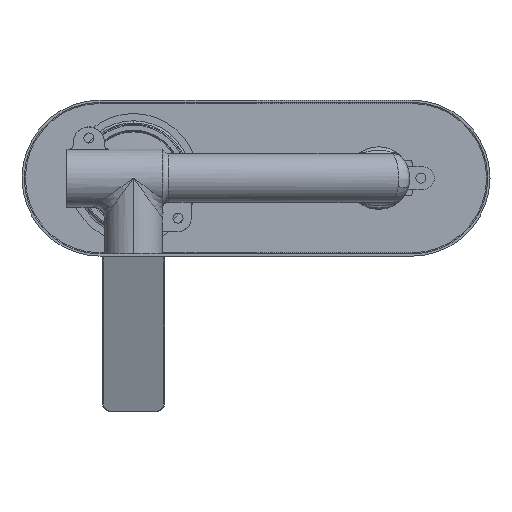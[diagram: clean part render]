
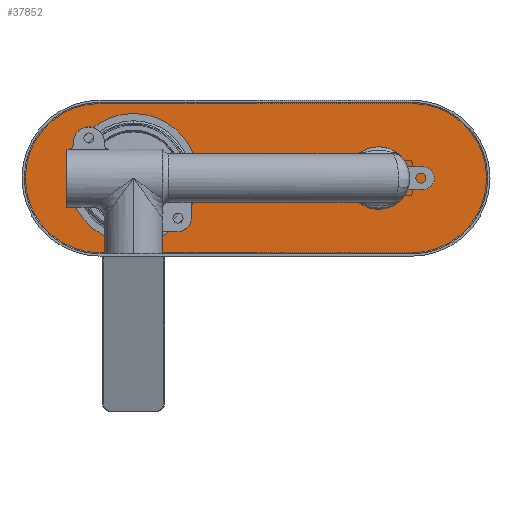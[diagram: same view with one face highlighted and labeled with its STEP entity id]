
A CAD part, left-side view. The second image highlights one B-rep face of the part: STEP entity #37852.
In plain terms, the highlighted planar face has unit normal (-1, 0, 0) as drawn and (0, 0, -1) by its records, which use the part's own axes.
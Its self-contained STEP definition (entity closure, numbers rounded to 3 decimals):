
#37397=DIRECTION('',(-1.,0.,0.));
#37398=VECTOR('',#37397,140.);
#37399=CARTESIAN_POINT('',(70.,-33.5,6.));
#37400=LINE('',#37399,#37398);
#37401=CARTESIAN_POINT('',(70.,0.,6.));
#37402=DIRECTION('',(0.,0.,-1.));
#37403=DIRECTION('',(0.,1.,0.));
#37404=AXIS2_PLACEMENT_3D('',#37401,#37402,#37403);
#37406=DIRECTION('',(1.,0.,0.));
#37407=VECTOR('',#37406,140.);
#37408=CARTESIAN_POINT('',(-70.,33.5,6.));
#37409=LINE('',#37408,#37407);
#37410=CARTESIAN_POINT('',(-70.,0.,6.));
#37411=DIRECTION('',(0.,0.,-1.));
#37412=DIRECTION('',(0.,-1.,0.));
#37413=AXIS2_PLACEMENT_3D('',#37410,#37411,#37412);
#37415=CARTESIAN_POINT('',(-55.,0.,6.));
#37416=DIRECTION('',(0.,0.,1.));
#37417=DIRECTION('',(1.,0.,0.));
#37418=AXIS2_PLACEMENT_3D('',#37415,#37416,#37417);
#37420=CARTESIAN_POINT('',(-55.,0.,6.));
#37421=DIRECTION('',(0.,0.,1.));
#37422=DIRECTION('',(-1.,0.,0.));
#37423=AXIS2_PLACEMENT_3D('',#37420,#37421,#37422);
#37425=CARTESIAN_POINT('',(55.,0.,6.));
#37426=DIRECTION('',(0.,0.,1.));
#37427=DIRECTION('',(1.,0.,0.));
#37428=AXIS2_PLACEMENT_3D('',#37425,#37426,#37427);
#37430=CARTESIAN_POINT('',(55.,0.,6.));
#37431=DIRECTION('',(0.,0.,1.));
#37432=DIRECTION('',(-1.,0.,0.));
#37433=AXIS2_PLACEMENT_3D('',#37430,#37431,#37432);
#37435=CARTESIAN_POINT('',(-44.,0.,6.));
#37436=DIRECTION('',(0.,0.,1.));
#37437=DIRECTION('',(1.,0.,0.));
#37438=AXIS2_PLACEMENT_3D('',#37435,#37436,#37437);
#37440=CARTESIAN_POINT('',(-44.,0.,6.));
#37441=DIRECTION('',(0.,0.,1.));
#37442=DIRECTION('',(-1.,0.,0.));
#37443=AXIS2_PLACEMENT_3D('',#37440,#37441,#37442);
#37445=CARTESIAN_POINT('',(-66.,0.,6.));
#37446=DIRECTION('',(0.,0.,1.));
#37447=DIRECTION('',(1.,0.,0.));
#37448=AXIS2_PLACEMENT_3D('',#37445,#37446,#37447);
#37450=CARTESIAN_POINT('',(-66.,0.,6.));
#37451=DIRECTION('',(0.,0.,1.));
#37452=DIRECTION('',(-1.,0.,0.));
#37453=AXIS2_PLACEMENT_3D('',#37450,#37451,#37452);
#37565=CARTESIAN_POINT('',(70.,-33.5,6.));
#37566=CARTESIAN_POINT('',(-70.,-33.5,6.));
#37567=VERTEX_POINT('',#37565);
#37568=VERTEX_POINT('',#37566);
#37573=CARTESIAN_POINT('',(70.,33.5,6.));
#37574=VERTEX_POINT('',#37573);
#37577=CARTESIAN_POINT('',(-70.,33.5,6.));
#37578=VERTEX_POINT('',#37577);
#37589=CARTESIAN_POINT('',(-48.,0.,6.));
#37590=CARTESIAN_POINT('',(-62.,0.,6.));
#37591=VERTEX_POINT('',#37589);
#37592=VERTEX_POINT('',#37590);
#37593=CARTESIAN_POINT('',(76.25,0.,6.));
#37594=CARTESIAN_POINT('',(33.75,0.,6.));
#37595=VERTEX_POINT('',#37593);
#37596=VERTEX_POINT('',#37594);
#37605=CARTESIAN_POINT('',(-41.9,0.,6.));
#37606=CARTESIAN_POINT('',(-46.1,0.,6.));
#37607=VERTEX_POINT('',#37605);
#37608=VERTEX_POINT('',#37606);
#37609=CARTESIAN_POINT('',(-63.9,0.,6.));
#37610=CARTESIAN_POINT('',(-68.1,0.,6.));
#37611=VERTEX_POINT('',#37609);
#37612=VERTEX_POINT('',#37610);
#37815=CARTESIAN_POINT('',(0.,0.,6.));
#37816=DIRECTION('',(0.,0.,1.));
#37817=DIRECTION('',(1.,0.,0.));
#37818=AXIS2_PLACEMENT_3D('',#37815,#37816,#37817);
#37819=PLANE('',#37818);
#37821=ORIENTED_EDGE('',*,*,#37820,.F.);
#37823=ORIENTED_EDGE('',*,*,#37822,.F.);
#37825=ORIENTED_EDGE('',*,*,#37824,.F.);
#37827=ORIENTED_EDGE('',*,*,#37826,.F.);
#37828=EDGE_LOOP('',(#37821,#37823,#37825,#37827));
#37829=FACE_OUTER_BOUND('',#37828,.F.);
#37830=ORIENTED_EDGE('',*,*,#37795,.F.);
#37831=ORIENTED_EDGE('',*,*,#37809,.F.);
#37832=EDGE_LOOP('',(#37830,#37831));
#37833=FACE_BOUND('',#37832,.F.);
#37835=ORIENTED_EDGE('',*,*,#37834,.F.);
#37837=ORIENTED_EDGE('',*,*,#37836,.F.);
#37838=EDGE_LOOP('',(#37835,#37837));
#37839=FACE_BOUND('',#37838,.F.);
#37841=ORIENTED_EDGE('',*,*,#37840,.F.);
#37843=ORIENTED_EDGE('',*,*,#37842,.F.);
#37844=EDGE_LOOP('',(#37841,#37843));
#37845=FACE_BOUND('',#37844,.F.);
#37847=ORIENTED_EDGE('',*,*,#37846,.F.);
#37849=ORIENTED_EDGE('',*,*,#37848,.F.);
#37850=EDGE_LOOP('',(#37847,#37849));
#37851=FACE_BOUND('',#37850,.F.);
#37852=ADVANCED_FACE('',(#37829,#37833,#37839,#37845,#37851),#37819,.F.);
#37405=CIRCLE('',#37404,33.5);
#37414=CIRCLE('',#37413,33.5);
#37419=CIRCLE('',#37418,7.);
#37424=CIRCLE('',#37423,7.);
#37429=CIRCLE('',#37428,21.25);
#37434=CIRCLE('',#37433,21.25);
#37439=CIRCLE('',#37438,2.1);
#37444=CIRCLE('',#37443,2.1);
#37449=CIRCLE('',#37448,2.1);
#37454=CIRCLE('',#37453,2.1);
#37795=EDGE_CURVE('',#37591,#37592,#37419,.T.);
#37809=EDGE_CURVE('',#37592,#37591,#37424,.T.);
#37820=EDGE_CURVE('',#37567,#37568,#37400,.T.);
#37822=EDGE_CURVE('',#37574,#37567,#37405,.T.);
#37824=EDGE_CURVE('',#37578,#37574,#37409,.T.);
#37826=EDGE_CURVE('',#37568,#37578,#37414,.T.);
#37834=EDGE_CURVE('',#37595,#37596,#37429,.T.);
#37836=EDGE_CURVE('',#37596,#37595,#37434,.T.);
#37840=EDGE_CURVE('',#37607,#37608,#37439,.T.);
#37842=EDGE_CURVE('',#37608,#37607,#37444,.T.);
#37846=EDGE_CURVE('',#37611,#37612,#37449,.T.);
#37848=EDGE_CURVE('',#37612,#37611,#37454,.T.);
